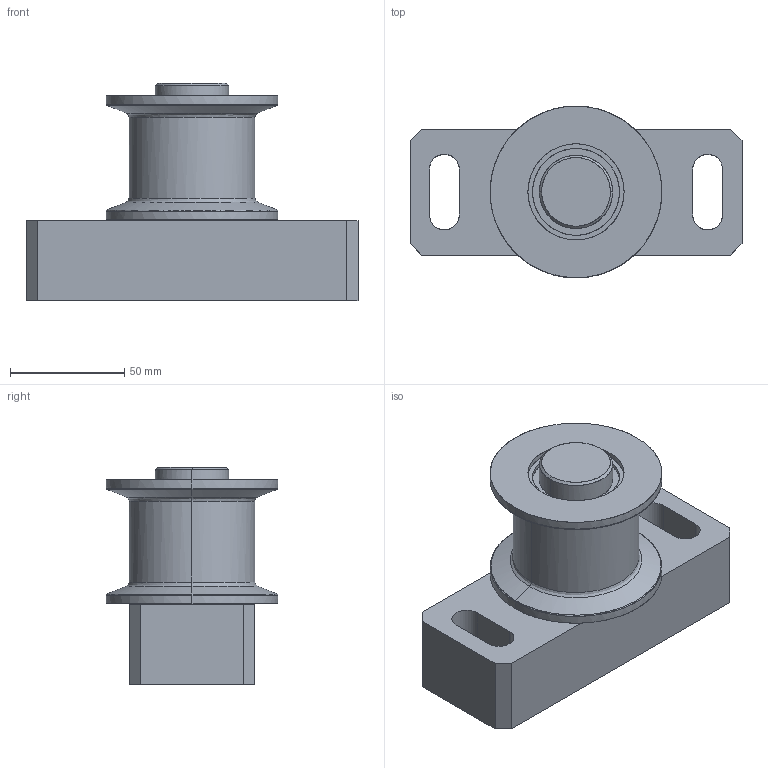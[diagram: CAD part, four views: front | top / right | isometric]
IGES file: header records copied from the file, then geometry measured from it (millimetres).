
Global section: file name: E:\UnigraphicsGraphicData\MISUMI_PRESS-PARTS\IGES\3d_gdrtb55-38_03787_r00.igs; native system: NX V5.0; preprocessor: UGS NX IGES V5.0; author: MISUMI; date: 20110105.160707; units: millimetre
Bounding box: 145 x 75 x 95 mm (x, y, z)
Surface area: 80655.4 mm2 (no closed solid volume)
Topology: 0 solids, 0 shells, 107 faces, 1024 edges, 1024 vertices
Faces by surface type: bspline 107
